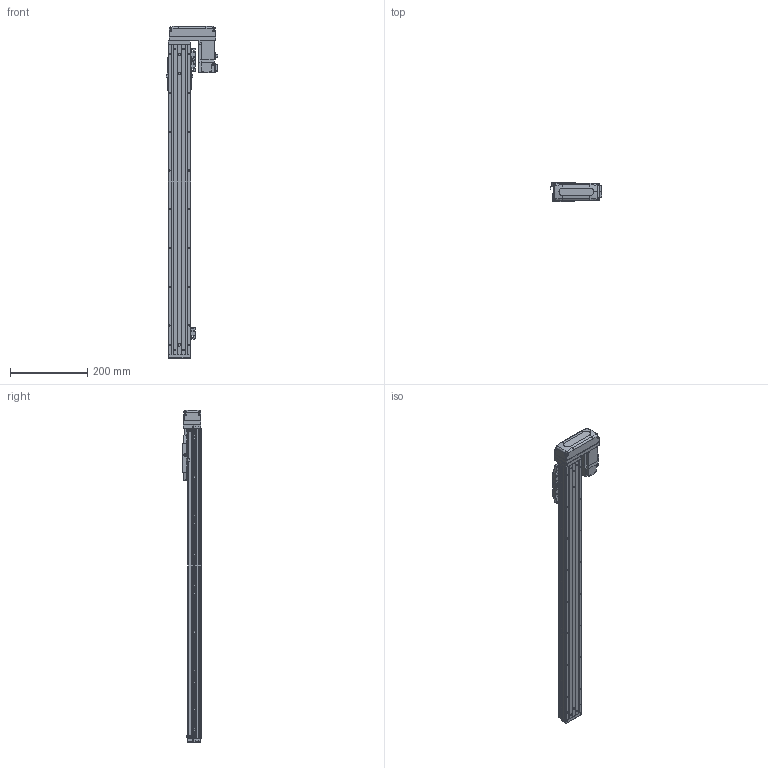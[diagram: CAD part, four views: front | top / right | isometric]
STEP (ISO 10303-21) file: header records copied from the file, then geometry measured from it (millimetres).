
FILE_DESCRIPTION (( 'STEP AP203' ), '1' );
FILE_NAME ('CTHA50-650-BL-M10-C4L.step', '2022-03-19T06:00:42', ( '微软用户' ), ( '微软中国' ), 'SwSTEP 2.0', 'SolidWorks 2020', '' );
FILE_SCHEMA (( 'CONFIG_CONTROL_DESIGN' ));
Length unit declared in the file: millimetre
Products named in the file (20): GBT 70.1-M4×12; GBT 70.3-M3℅6; GB¨uT 70.2-M3¡Á6_M3¡Á6; CTHA60-016; CTHA50-015-2_CTHA60-015-2; CTHA60-021; CTHA60-033; EE_SX911P_R; HG-KR13（三菱）; GBT 70.1-M3×15; GBT77-2000 M3×3; CTHA50-002; CTHA50-650-BL-M10-C4L; KTHA50-001_800; GBT 70.1-M3℅6; CTHA50-030; KTHA50-004; CTHA60-017; CTHA50-031; KTHA50-005
Assembly tree (60 placements, depth 2):
  CTHA50-650-BL-M10-C4L
    KTHA50-001_800
    KTHA50-004
    KTHA50-005
    GB¨uT 70.2-M3¡Á6_M3¡Á6  x10
    EE_SX911P_R  x3
    GBT77-2000 M3×3  x6
    GBT 70.1-M3℅6  x6
    CTHA60-017  x3
    GBT 70.1-M4×12  x10
    CTHA60-016  x2
    CTHA60-021  x2
    HG-KR13（三菱）
    CTHA50-002
    CTHA50-030  x2
    CTHA50-031
    GBT 70.3-M3℅6  x4
    CTHA50-015-2_CTHA60-015-2
    CTHA60-033
    GBT 70.1-M3×15  x4
Bounding box: 132.6 x 48 x 857 mm (x, y, z)
Volume: 1601211.5 mm3; surface area: 407791.3 mm2
Topology: 62 solids, 62 shells, 2573 faces, 6135 edges, 3762 vertices
Faces by surface type: plane 1458, cylinder 600, cone 357, torus 108, bspline 26, sphere 24
Entity records: 44623 total; most frequent: CARTESIAN_POINT 8219, DIRECTION 6975, ORIENTED_EDGE 6778, EDGE_CURVE 3389, LINE 2379, VECTOR 2379, AXIS2_PLACEMENT_3D 2298, VERTEX_POINT 2136
